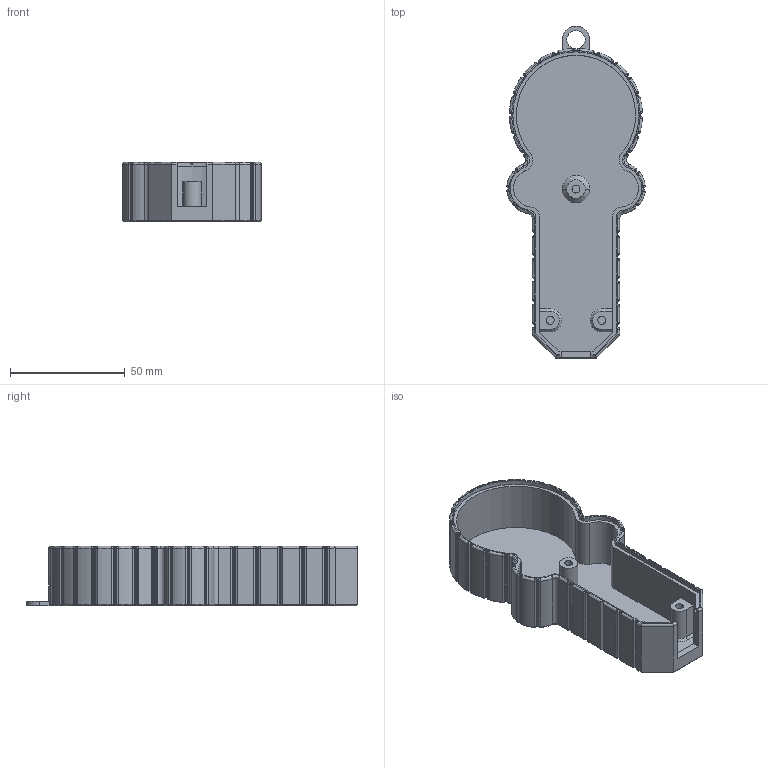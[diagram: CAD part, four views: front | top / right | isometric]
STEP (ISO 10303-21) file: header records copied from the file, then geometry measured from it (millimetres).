
FILE_DESCRIPTION (( 'STEP AP214' ), '1' );
FILE_NAME ('fluidial_bottom.STEP', '2025-10-01T10:38:02', ( '' ), ( '' ), 'SwSTEP 2.0', 'SolidWorks 2018', '' );
FILE_SCHEMA (( 'AUTOMOTIVE_DESIGN' ));
Length unit declared in the file: millimetre
Products named in the file (1): fluidial_bottom
Bounding box: 60.38 x 144.8 x 26 mm (x, y, z)
Volume: 35976.5 mm3; surface area: 30614.4 mm2
Topology: 1 solids, 1 shells, 770 faces, 1824 edges, 1043 vertices
Faces by surface type: cylinder 258, plane 218, cone 142, sphere 67, torus 58, bspline 27
Entity records: 22563 total; most frequent: CARTESIAN_POINT 4734, DIRECTION 4040, ORIENTED_EDGE 3592, EDGE_CURVE 1796, AXIS2_PLACEMENT_3D 1573, VERTEX_POINT 1035, VECTOR 894, LINE 894
